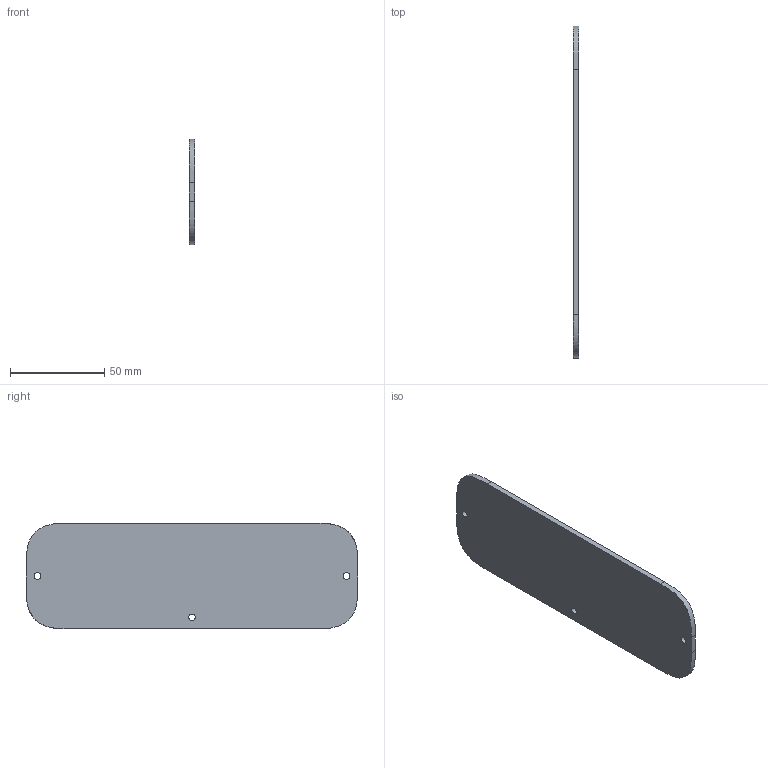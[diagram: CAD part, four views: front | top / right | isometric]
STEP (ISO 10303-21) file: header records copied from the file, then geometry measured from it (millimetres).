
FILE_DESCRIPTION(/* description */ (''),/* implementation_level */ '2;1');
FILE_NAME(/* name */ 'BACK PLATE.step',/* time_stamp */ '2024-02-28T16:26:57Z',/* author */ (''),/* organization */ (''),/* preprocessor_version */ 'ST-DEVELOPER v20',/* originating_system */ 'Autodesk Translation Framework v12.20.1.177',/* authorisation */ '');
FILE_SCHEMA (('AUTOMOTIVE_DESIGN { 1 0 10303 214 3 1 1 }'));
Length unit declared in the file: millimetre
Products named in the file (1): BACK PLATE
Bounding box: 3 x 176 x 56 mm (x, y, z)
Volume: 28725.4 mm3; surface area: 20541.9 mm2
Topology: 1 solids, 1 shells, 13 faces, 33 edges, 22 vertices
Faces by surface type: plane 6, bspline 4, cylinder 3
Full cylindrical faces by diameter (mm): 3.5 x3
Entity records: 997 total; most frequent: CARTESIAN_POINT 649, ORIENTED_EDGE 66, DIRECTION 51, EDGE_CURVE 33, VERTEX_POINT 22, EDGE_LOOP 19, LINE 19, VECTOR 19
